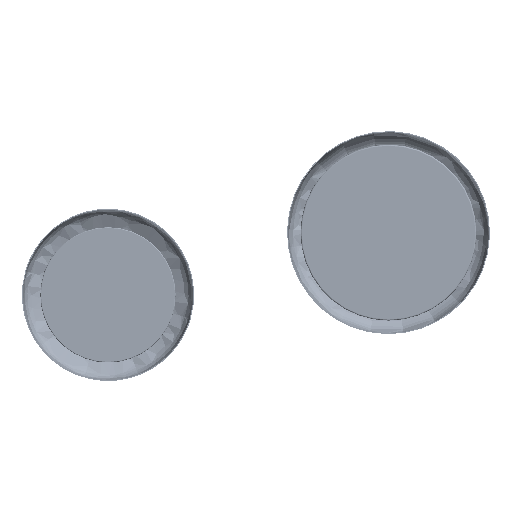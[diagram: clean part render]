
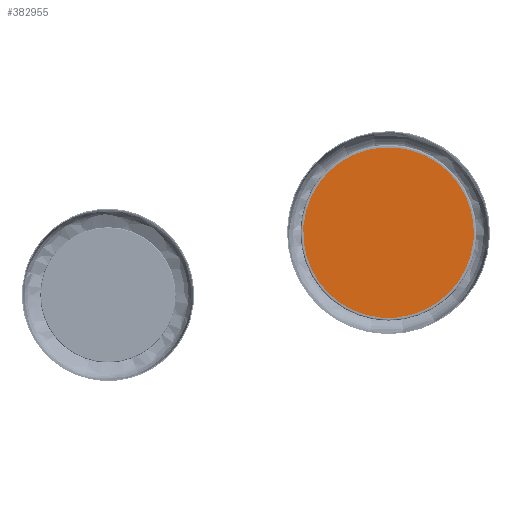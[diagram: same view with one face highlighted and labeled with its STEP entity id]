
A CAD part, front view. The second image highlights one B-rep face of the part: STEP entity #382955.
In plain terms, the highlighted planar face has unit normal (0, -1, 0).
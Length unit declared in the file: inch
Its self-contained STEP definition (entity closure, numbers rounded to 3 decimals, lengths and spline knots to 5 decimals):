
#288 = EDGE_CURVE ( 'NONE', #39872, #321593, #161996, .T. ) ;
#17853 = DIRECTION ( 'NONE',  ( 0., 0., 1. ) ) ;
#37055 = DIRECTION ( 'NONE',  ( 0., 0., 1. ) ) ;
#39872 = VERTEX_POINT ( 'NONE', #327214 ) ;
#42612 = ORIENTED_EDGE ( 'NONE', *, *, #288, .F. ) ;
#75608 = PLANE ( 'NONE',  #150936 ) ;
#78649 = DIRECTION ( 'NONE',  ( 0., 1., 0. ) ) ;
#102886 = FACE_OUTER_BOUND ( 'NONE', #296543, .T. ) ;
#127434 = AXIS2_PLACEMENT_3D ( 'NONE', #210434, #78649, #17853 ) ;
#147462 = CIRCLE ( 'NONE', #127434, 6.30315 ) ;
#150936 = AXIS2_PLACEMENT_3D ( 'NONE', #358214, #230556, #391667 ) ;
#161996 = CIRCLE ( 'NONE', #188596, 6.30315 ) ;
#188596 = AXIS2_PLACEMENT_3D ( 'NONE', #227530, #265086, #37055 ) ;
#210434 = CARTESIAN_POINT ( 'NONE',  ( 0., 0., 0. ) ) ;
#222218 = CARTESIAN_POINT ( 'NONE',  ( 0., 0., -6.30315 ) ) ;
#227530 = CARTESIAN_POINT ( 'NONE',  ( 0., 0., 0. ) ) ;
#230556 = DIRECTION ( 'NONE',  ( 0., 1., 0. ) ) ;
#265086 = DIRECTION ( 'NONE',  ( 0., 1., 0. ) ) ;
#296543 = EDGE_LOOP ( 'NONE', ( #355882, #42612 ) ) ;
#321593 = VERTEX_POINT ( 'NONE', #222218 ) ;
#327214 = CARTESIAN_POINT ( 'NONE',  ( 0., 0., 6.30315 ) ) ;
#355882 = ORIENTED_EDGE ( 'NONE', *, *, #367747, .F. ) ;
#358214 = CARTESIAN_POINT ( 'NONE',  ( 0., 0., 0. ) ) ;
#367747 = EDGE_CURVE ( 'NONE', #321593, #39872, #147462, .T. ) ;
#382955 = ADVANCED_FACE ( 'NONE', ( #102886 ), #75608, .F. ) ;
#391667 = DIRECTION ( 'NONE',  ( 1., 0., 0. ) ) ;
